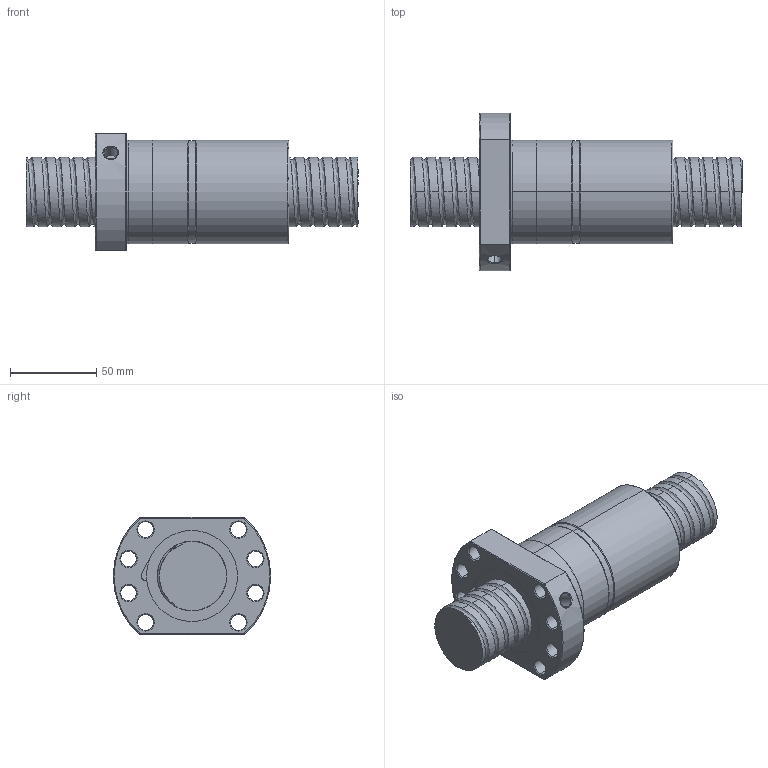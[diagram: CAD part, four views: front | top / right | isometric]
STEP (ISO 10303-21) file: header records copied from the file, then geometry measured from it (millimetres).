
FILE_DESCRIPTION (( 'STEP AP214' ), '1' );
FILE_NAME ('FDDC04008T4-D-C.STEP', '2010-07-06T05:32:11', ( 'XPAUTO' ), ( 'XPAUTO' ), 'SwSTEP 2.0', 'SolidWorks 2007', '' );
FILE_SCHEMA (( 'AUTOMOTIVE_DESIGN' ));
Products named in the file (3): FDDC04008T4-D-C.sldasm-Part-1_預設; FDDC04008T4-D-C; FDDC04008T4-D-C.sldasm-Part-2_預設
Assembly tree (2 placements, depth 2):
  FDDC04008T4-D-C
    FDDC04008T4-D-C.sldasm-Part-1_預設
    FDDC04008T4-D-C.sldasm-Part-2_預設
Bounding box: 192 x 91 x 68 mm (x, y, z)
Volume: 445586.4 mm3; surface area: 78217 mm2
Topology: 2 solids, 2 shells, 166 faces, 416 edges, 259 vertices
Faces by surface type: cylinder 97, cone 32, plane 22, torus 10, bspline 5
Entity records: 46619 total; most frequent: CARTESIAN_POINT 42689, ORIENTED_EDGE 832, DIRECTION 762, EDGE_CURVE 416, AXIS2_PLACEMENT_3D 308, VERTEX_POINT 259, EDGE_LOOP 191, FACE_OUTER_BOUND 166
